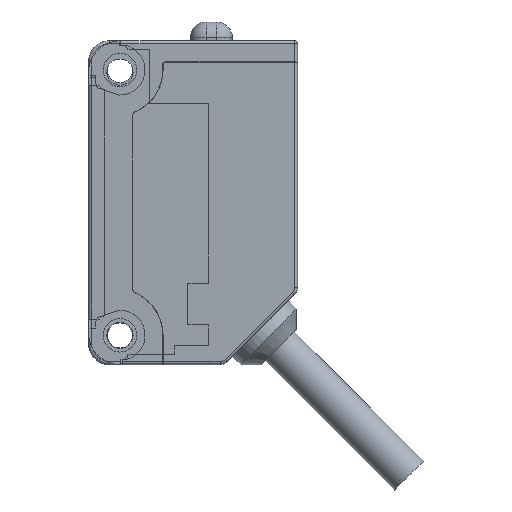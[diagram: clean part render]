
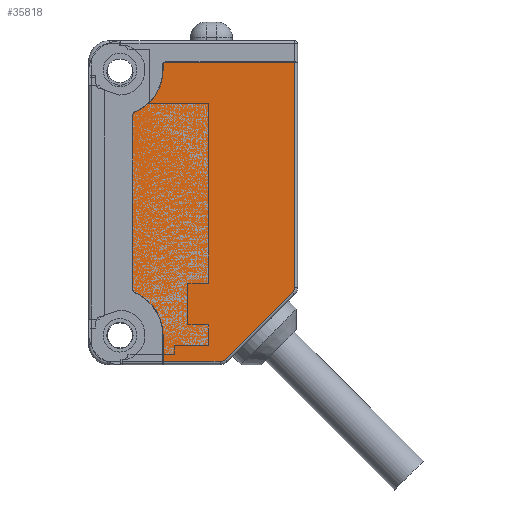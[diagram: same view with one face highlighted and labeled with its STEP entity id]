
A CAD part, top view. The second image highlights one B-rep face of the part: STEP entity #35818.
In plain terms, the highlighted planar face has unit normal (0, 0, 1) as drawn and (-1, 0, 0) by its records, which use the part's own axes.
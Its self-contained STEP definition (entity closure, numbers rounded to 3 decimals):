
#33516=DIRECTION('',(0.,0.,1.));
#33517=VECTOR('',#33516,21.549);
#33518=CARTESIAN_POINT('',(-5.5,0.3,-7.386));
#33519=LINE('',#33518,#33517);
#33520=CARTESIAN_POINT('',(-5.5,1.,-7.386));
#33521=DIRECTION('',(-1.,0.,0.));
#33522=DIRECTION('',(0.,-0.707,-0.707));
#33523=AXIS2_PLACEMENT_3D('',#33520,#33521,#33522);
#33525=DIRECTION('',(0.,-0.707,0.707));
#33526=VECTOR('',#33525,9.071);
#33527=CARTESIAN_POINT('',(-5.5,6.919,-14.295));
#33528=LINE('',#33527,#33526);
#33529=CARTESIAN_POINT('',(-5.5,7.414,-13.8));
#33530=DIRECTION('',(-1.,0.,0.));
#33531=DIRECTION('',(0.,0.,-1.));
#33532=AXIS2_PLACEMENT_3D('',#33529,#33530,#33531);
#33534=DIRECTION('',(0.,-1.,0.));
#33535=VECTOR('',#33534,5.449);
#33536=CARTESIAN_POINT('',(-5.5,12.863,-14.5));
#33537=LINE('',#33536,#33535);
#33538=DIRECTION('',(0.,0.,1.));
#33539=VECTOR('',#33538,2.5);
#33540=CARTESIAN_POINT('',(-5.5,12.863,-14.5));
#33541=LINE('',#33540,#33539);
#33542=CARTESIAN_POINT('',(-5.5,17.31,-12.));
#33543=DIRECTION('',(1.,0.,0.));
#33544=DIRECTION('',(0.,-0.389,0.921));
#33545=AXIS2_PLACEMENT_3D('',#33542,#33543,#33544);
#33547=CARTESIAN_POINT('',(-5.5,15.463,-7.627));
#33548=DIRECTION('',(-1.,0.,0.));
#33549=DIRECTION('',(0.,1.,0.));
#33550=AXIS2_PLACEMENT_3D('',#33547,#33548,#33549);
#33552=DIRECTION('',(0.,0.,1.));
#33553=VECTOR('',#33552,16.74);
#33554=CARTESIAN_POINT('',(-5.5,15.763,-7.627));
#33555=LINE('',#33554,#33553);
#33556=CARTESIAN_POINT('',(-5.5,15.463,9.113));
#33557=DIRECTION('',(-1.,0.,0.));
#33558=DIRECTION('',(0.,0.375,0.927));
#33559=AXIS2_PLACEMENT_3D('',#33556,#33557,#33558);
#33561=CARTESIAN_POINT('',(-5.5,17.2,13.412));
#33562=DIRECTION('',(-1.,0.,0.));
#33563=DIRECTION('',(0.,-0.375,-0.927));
#33564=AXIS2_PLACEMENT_3D('',#33561,#33562,#33563);
#33566=DIRECTION('',(0.,0.,1.));
#33567=VECTOR('',#33566,0.451);
#33568=CARTESIAN_POINT('',(-5.5,12.863,13.412));
#33569=LINE('',#33568,#33567);
#33570=CARTESIAN_POINT('',(-5.5,12.563,13.863));
#33571=DIRECTION('',(-1.,0.,0.));
#33572=DIRECTION('',(0.,0.,1.));
#33573=AXIS2_PLACEMENT_3D('',#33570,#33571,#33572);
#33575=DIRECTION('',(0.,1.,0.));
#33576=VECTOR('',#33575,12.263);
#33577=CARTESIAN_POINT('',(-5.5,0.3,14.163));
#33578=LINE('',#33577,#33576);
#35540=CARTESIAN_POINT('',(-5.5,12.863,13.412));
#35542=VERTEX_POINT('',#35540);
#35555=CARTESIAN_POINT('',(-5.5,15.58,-7.903));
#35557=VERTEX_POINT('',#35555);
#35559=CARTESIAN_POINT('',(-5.5,15.763,-7.627));
#35561=VERTEX_POINT('',#35559);
#35563=CARTESIAN_POINT('',(-5.5,12.863,13.863));
#35565=VERTEX_POINT('',#35563);
#35567=CARTESIAN_POINT('',(-5.5,12.563,14.163));
#35569=VERTEX_POINT('',#35567);
#35624=CARTESIAN_POINT('',(-5.5,12.863,-12.));
#35625=VERTEX_POINT('',#35624);
#35659=CARTESIAN_POINT('',(-5.5,0.3,-7.386));
#35660=CARTESIAN_POINT('',(-5.5,0.3,14.163));
#35661=VERTEX_POINT('',#35659);
#35662=VERTEX_POINT('',#35660);
#35663=CARTESIAN_POINT('',(-5.5,0.505,-7.881));
#35664=VERTEX_POINT('',#35663);
#35667=CARTESIAN_POINT('',(-5.5,6.919,-14.295));
#35668=VERTEX_POINT('',#35667);
#35671=CARTESIAN_POINT('',(-5.5,7.414,-14.5));
#35672=VERTEX_POINT('',#35671);
#35675=CARTESIAN_POINT('',(-5.5,12.863,-14.5));
#35676=VERTEX_POINT('',#35675);
#35687=CARTESIAN_POINT('',(-5.5,15.576,9.392));
#35688=CARTESIAN_POINT('',(-5.5,15.763,9.113));
#35689=VERTEX_POINT('',#35687);
#35690=VERTEX_POINT('',#35688);
#35783=CARTESIAN_POINT('',(-5.5,0.,0.));
#35784=DIRECTION('',(1.,0.,0.));
#35785=DIRECTION('',(0.,0.,-1.));
#35786=AXIS2_PLACEMENT_3D('',#35783,#35784,#35785);
#35787=PLANE('',#35786);
#35789=ORIENTED_EDGE('',*,*,#35788,.F.);
#35791=ORIENTED_EDGE('',*,*,#35790,.F.);
#35793=ORIENTED_EDGE('',*,*,#35792,.F.);
#35795=ORIENTED_EDGE('',*,*,#35794,.F.);
#35797=ORIENTED_EDGE('',*,*,#35796,.F.);
#35799=ORIENTED_EDGE('',*,*,#35798,.T.);
#35801=ORIENTED_EDGE('',*,*,#35800,.F.);
#35803=ORIENTED_EDGE('',*,*,#35802,.F.);
#35805=ORIENTED_EDGE('',*,*,#35804,.T.);
#35807=ORIENTED_EDGE('',*,*,#35806,.F.);
#35809=ORIENTED_EDGE('',*,*,#35808,.T.);
#35811=ORIENTED_EDGE('',*,*,#35810,.T.);
#35813=ORIENTED_EDGE('',*,*,#35812,.F.);
#35815=ORIENTED_EDGE('',*,*,#35814,.F.);
#35816=EDGE_LOOP('',(#35789,#35791,#35793,#35795,#35797,#35799,#35801,#35803,
#35805,#35807,#35809,#35811,#35813,#35815));
#35817=FACE_OUTER_BOUND('',#35816,.F.);
#35818=ADVANCED_FACE('',(#35817),#35787,.F.);
#33524=CIRCLE('',#33523,0.7);
#33533=CIRCLE('',#33532,0.7);
#33546=CIRCLE('',#33545,4.447);
#33551=CIRCLE('',#33550,0.3);
#33560=CIRCLE('',#33559,0.3);
#33565=CIRCLE('',#33564,4.337);
#33574=CIRCLE('',#33573,0.3);
#35788=EDGE_CURVE('',#35661,#35662,#33519,.T.);
#35790=EDGE_CURVE('',#35664,#35661,#33524,.T.);
#35792=EDGE_CURVE('',#35668,#35664,#33528,.T.);
#35794=EDGE_CURVE('',#35672,#35668,#33533,.T.);
#35796=EDGE_CURVE('',#35676,#35672,#33537,.T.);
#35798=EDGE_CURVE('',#35676,#35625,#33541,.T.);
#35800=EDGE_CURVE('',#35557,#35625,#33546,.T.);
#35802=EDGE_CURVE('',#35561,#35557,#33551,.T.);
#35804=EDGE_CURVE('',#35561,#35690,#33555,.T.);
#35806=EDGE_CURVE('',#35689,#35690,#33560,.T.);
#35808=EDGE_CURVE('',#35689,#35542,#33565,.T.);
#35810=EDGE_CURVE('',#35542,#35565,#33569,.T.);
#35812=EDGE_CURVE('',#35569,#35565,#33574,.T.);
#35814=EDGE_CURVE('',#35662,#35569,#33578,.T.);
